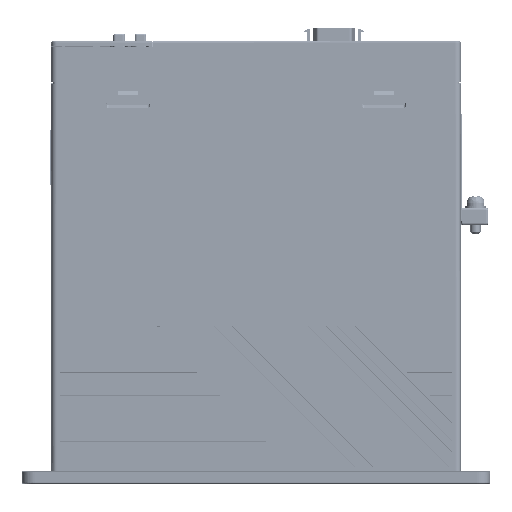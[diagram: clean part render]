
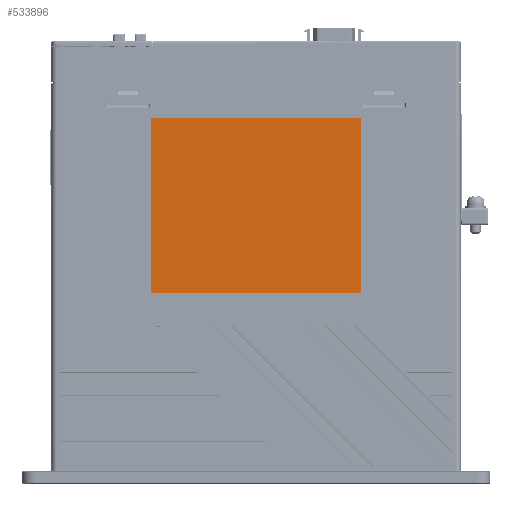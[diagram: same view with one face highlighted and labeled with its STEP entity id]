
A CAD part, top view. The second image highlights one B-rep face of the part: STEP entity #533896.
In plain terms, the highlighted planar face has unit normal (0, 0, 1).
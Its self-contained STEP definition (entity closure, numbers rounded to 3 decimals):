
#519809=DIRECTION('',(1.,0.,0.));
#519810=VECTOR('',#519809,81.);
#519811=CARTESIAN_POINT('',(-40.5,69.6,-0.5));
#519812=LINE('',#519811,#519810);
#520019=CARTESIAN_POINT('',(-40.5,70.1,-0.5));
#520020=DIRECTION('',(0.,0.,-1.));
#520021=DIRECTION('',(0.,-1.,0.));
#520022=AXIS2_PLACEMENT_3D('',#520019,#520020,#520021);
#520024=CARTESIAN_POINT('',(-40.5,137.5,-0.5));
#520025=DIRECTION('',(0.,0.,-1.));
#520026=DIRECTION('',(-1.,0.,0.));
#520027=AXIS2_PLACEMENT_3D('',#520024,#520025,#520026);
#520029=CARTESIAN_POINT('',(40.5,137.5,-0.5));
#520030=DIRECTION('',(0.,0.,-1.));
#520031=DIRECTION('',(0.,1.,0.));
#520032=AXIS2_PLACEMENT_3D('',#520029,#520030,#520031);
#520034=CARTESIAN_POINT('',(40.5,70.1,-0.5));
#520035=DIRECTION('',(0.,0.,-1.));
#520036=DIRECTION('',(1.,0.,0.));
#520037=AXIS2_PLACEMENT_3D('',#520034,#520035,#520036);
#520039=DIRECTION('',(0.,-1.,0.));
#520040=VECTOR('',#520039,67.4);
#520041=CARTESIAN_POINT('',(-41.,137.5,-0.5));
#520042=LINE('',#520041,#520040);
#520051=DIRECTION('',(-1.,0.,0.));
#520052=VECTOR('',#520051,81.);
#520053=CARTESIAN_POINT('',(40.5,138.,-0.5));
#520054=LINE('',#520053,#520052);
#520063=DIRECTION('',(0.,1.,0.));
#520064=VECTOR('',#520063,67.4);
#520065=CARTESIAN_POINT('',(41.,70.1,-0.5));
#520066=LINE('',#520065,#520064);
#526626=CARTESIAN_POINT('',(-40.5,69.6,-0.5));
#526627=VERTEX_POINT('',#526626);
#526628=CARTESIAN_POINT('',(40.5,69.6,-0.5));
#526629=VERTEX_POINT('',#526628);
#526752=CARTESIAN_POINT('',(-41.,70.1,-0.5));
#526753=VERTEX_POINT('',#526752);
#526754=CARTESIAN_POINT('',(-41.,137.5,-0.5));
#526755=VERTEX_POINT('',#526754);
#526756=CARTESIAN_POINT('',(-40.5,138.,-0.5));
#526757=VERTEX_POINT('',#526756);
#526758=CARTESIAN_POINT('',(40.5,138.,-0.5));
#526759=VERTEX_POINT('',#526758);
#526760=CARTESIAN_POINT('',(41.,137.5,-0.5));
#526761=VERTEX_POINT('',#526760);
#526762=CARTESIAN_POINT('',(41.,70.1,-0.5));
#526763=VERTEX_POINT('',#526762);
#533875=CARTESIAN_POINT('',(0.,0.,-0.5));
#533876=DIRECTION('',(0.,0.,1.));
#533877=DIRECTION('',(0.,1.,0.));
#533878=AXIS2_PLACEMENT_3D('',#533875,#533876,#533877);
#533879=PLANE('',#533878);
#533880=ORIENTED_EDGE('',*,*,#533866,.T.);
#533882=ORIENTED_EDGE('',*,*,#533881,.F.);
#533884=ORIENTED_EDGE('',*,*,#533883,.T.);
#533886=ORIENTED_EDGE('',*,*,#533885,.F.);
#533888=ORIENTED_EDGE('',*,*,#533887,.T.);
#533890=ORIENTED_EDGE('',*,*,#533889,.F.);
#533892=ORIENTED_EDGE('',*,*,#533891,.T.);
#533893=ORIENTED_EDGE('',*,*,#533674,.F.);
#533894=EDGE_LOOP('',(#533880,#533882,#533884,#533886,#533888,#533890,#533892,
#533893));
#533895=FACE_OUTER_BOUND('',#533894,.F.);
#533896=ADVANCED_FACE('',(#533895),#533879,.T.);
#520023=CIRCLE('',#520022,0.5);
#520028=CIRCLE('',#520027,0.5);
#520033=CIRCLE('',#520032,0.5);
#520038=CIRCLE('',#520037,0.5);
#533674=EDGE_CURVE('',#526627,#526629,#519812,.T.);
#533866=EDGE_CURVE('',#526627,#526753,#520023,.T.);
#533881=EDGE_CURVE('',#526755,#526753,#520042,.T.);
#533883=EDGE_CURVE('',#526755,#526757,#520028,.T.);
#533885=EDGE_CURVE('',#526759,#526757,#520054,.T.);
#533887=EDGE_CURVE('',#526759,#526761,#520033,.T.);
#533889=EDGE_CURVE('',#526763,#526761,#520066,.T.);
#533891=EDGE_CURVE('',#526763,#526629,#520038,.T.);
